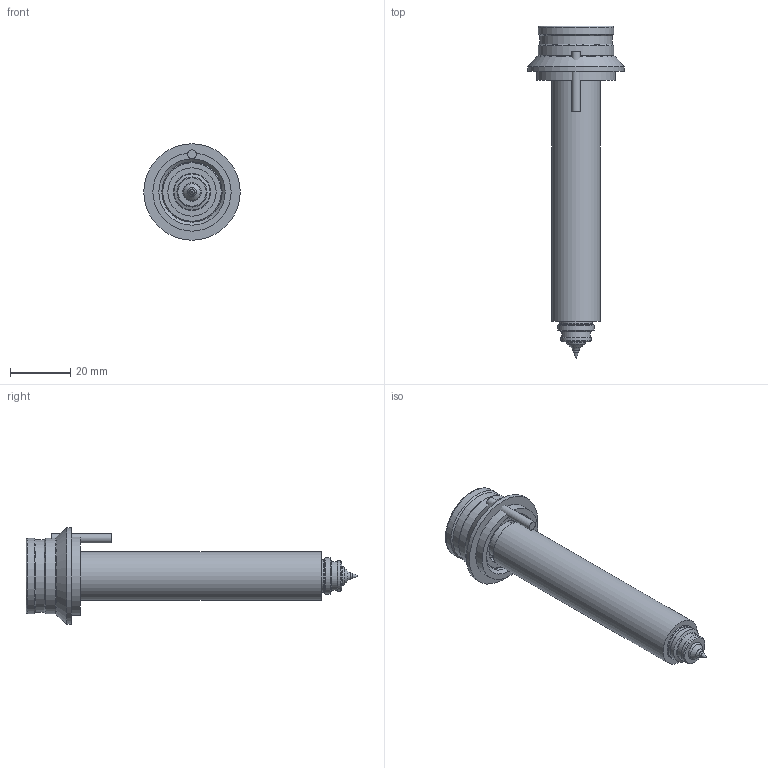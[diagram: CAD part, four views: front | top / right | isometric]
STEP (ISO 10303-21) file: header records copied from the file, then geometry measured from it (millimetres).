
FILE_DESCRIPTION(('STEP AP214'),'1');
FILE_NAME('//Server-yudoeu/YUDO-EU/Production YUDO EU/CAD-Gen/Blocos/Blocos 2D/Ficheiros 3D/YUEN/YEM12CS100/YEM12CS110_1.2.step','2010-07-09T10:40:38',(' '),(' '),'Spatial InterOp 3D',' ',' ');
FILE_SCHEMA(('automotive_design'));
Length unit declared in the file: millimetre
Products named in the file (4): Heater; Flange; @282; nozzle
Bounding box: 32 x 110.2 x 32 mm (x, y, z)
Volume: 25497.2 mm3; surface area: 15354.8 mm2
Topology: 4 solids, 4 shells, 64 faces, 108 edges, 62 vertices
Faces by surface type: cylinder 19, plane 18, cone 17, torus 10
Full cylindrical faces by diameter (mm): 3 x1, 6.1 x1, 9.6 x1, 10 x1, 10.8 x1, 12 x1, 12.05 x1, 12.3 x1, 12.5 x1, 15.65 x1, 16 x1, 16.5 x1, 20 x2, 24 x1, 25 x2, 26 x1, 32 x1
Entity records: 1845 total; most frequent: DIRECTION 260, CARTESIAN_POINT 192, AXIS2_PLACEMENT_3D 130, EDGE_LOOP 124, ORIENTED_EDGE 124, FACE_OUTER_BOUND 93, STYLED_ITEM 64, PRESENTATION_STYLE_ASSIGNMENT 64
